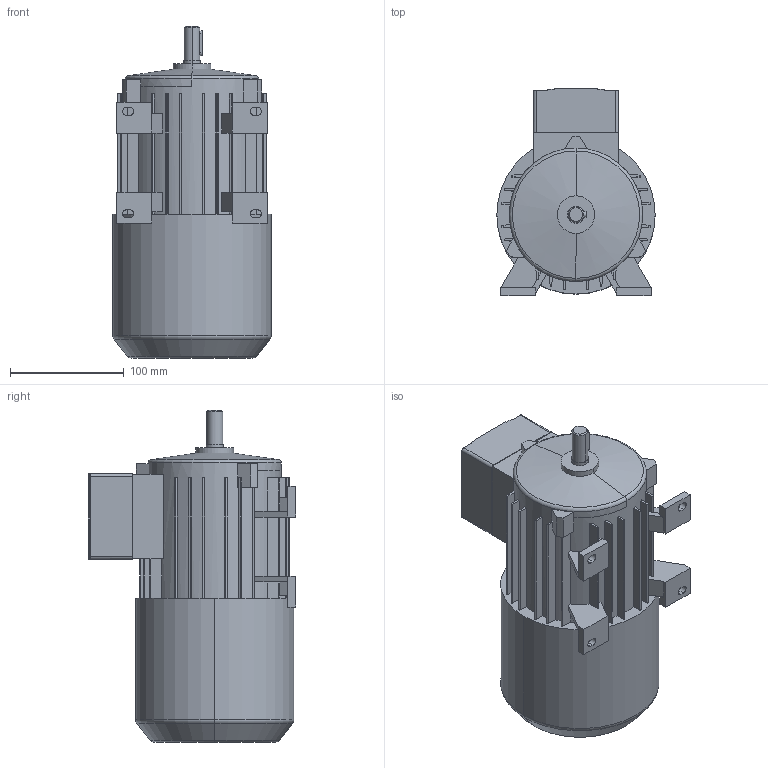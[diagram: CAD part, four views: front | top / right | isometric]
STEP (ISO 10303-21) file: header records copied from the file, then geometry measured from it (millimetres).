
FILE_DESCRIPTION((''),'2;1');
FILE_NAME('1LA7070-2AA10-Z-G26_PRT','2002-04-12T',('martin könig'),(''),'PRO/ENGINEER BY PARAMETRIC TECHNOLOGY CORPORATION, 2002030','PRO/ENGINEER BY PARAMETRIC TECHNOLOGY CORPORATION, 2002030','');
FILE_SCHEMA(('CONFIG_CONTROL_DESIGN'));
Length unit declared in the file: millimetre
Products named in the file (1): 1LA7070-2AA10-Z-G26_PRT
Bounding box: 139 x 182 x 291.5 mm (x, y, z)
Volume: 3594822.5 mm3; surface area: 194823 mm2
Topology: 1 solids, 1 shells, 262 faces, 737 edges, 483 vertices
Faces by surface type: plane 180, cylinder 70, torus 6, cone 6
Entity records: 8542 total; most frequent: CARTESIAN_POINT 1513, DIRECTION 1479, ORIENTED_EDGE 1474, EDGE_CURVE 737, VECTOR 515, LINE 515, VERTEX_POINT 483, AXIS2_PLACEMENT_3D 482
